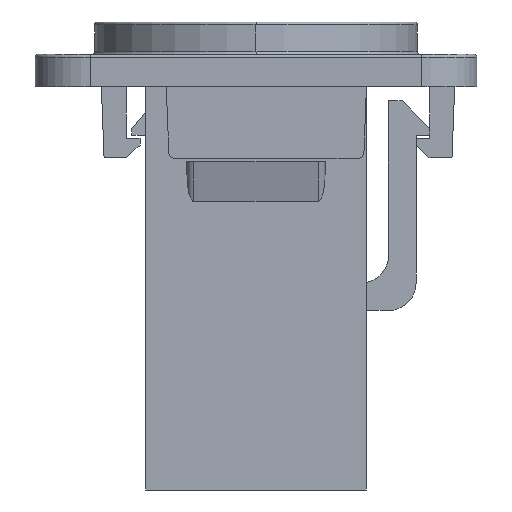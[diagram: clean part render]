
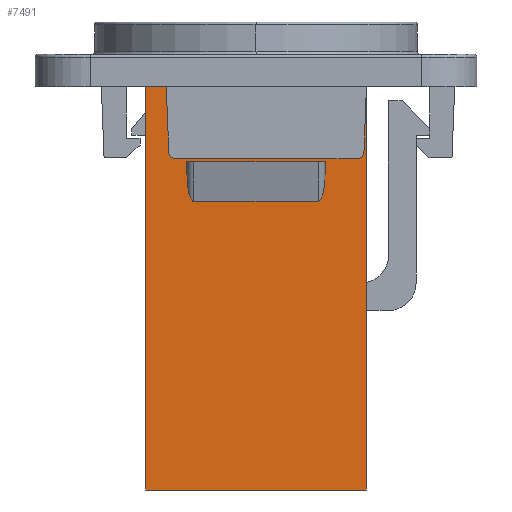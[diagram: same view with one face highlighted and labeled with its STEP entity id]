
A CAD part, left-side view. The second image highlights one B-rep face of the part: STEP entity #7491.
In plain terms, the highlighted planar face has unit normal (-1, 0, 0).
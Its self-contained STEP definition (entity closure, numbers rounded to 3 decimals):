
#200=DIRECTION('',(0.,0.,-1.));
#201=VECTOR('',#200,33.692);
#202=CARTESIAN_POINT('',(-7.3,8.,0.));
#203=LINE('',#202,#201);
#212=DIRECTION('',(0.,-1.,0.));
#213=VECTOR('',#212,16.);
#214=CARTESIAN_POINT('',(-7.3,8.,0.));
#215=LINE('',#214,#213);
#216=DIRECTION('',(0.,0.,-1.));
#217=VECTOR('',#216,33.692);
#218=CARTESIAN_POINT('',(-7.3,-8.,0.));
#219=LINE('',#218,#217);
#220=DIRECTION('',(0.,-1.,0.));
#221=VECTOR('',#220,9.);
#222=CARTESIAN_POINT('',(-7.3,4.5,-12.777));
#223=LINE('',#222,#221);
#224=DIRECTION('',(0.,0.,1.));
#225=VECTOR('',#224,0.942);
#226=CARTESIAN_POINT('',(-7.3,-5.,-10.86));
#227=LINE('',#226,#225);
#252=DIRECTION('',(0.,-1.,0.));
#253=VECTOR('',#252,16.);
#254=CARTESIAN_POINT('',(-7.3,8.,-33.692));
#255=LINE('',#254,#253);
#4958=CARTESIAN_POINT('',(-7.3,4.5,-12.777));
#4959=CARTESIAN_POINT('',(-7.3,4.55,-12.777));
#4960=CARTESIAN_POINT('',(-7.3,4.61,-12.736));
#4961=CARTESIAN_POINT('',(-7.3,4.68,-12.655));
#4962=CARTESIAN_POINT('',(-7.3,4.734,-12.558));
#4963=CARTESIAN_POINT('',(-7.3,4.795,-12.418));
#4964=CARTESIAN_POINT('',(-7.3,4.855,-12.225));
#4965=CARTESIAN_POINT('',(-7.3,4.909,-11.978));
#4966=CARTESIAN_POINT('',(-7.3,4.95,-11.716));
#4967=CARTESIAN_POINT('',(-7.3,4.988,-11.351));
#4968=CARTESIAN_POINT('',(-7.3,5.,-11.061));
#4969=CARTESIAN_POINT('',(-7.3,5.,-10.86));
#4979=DIRECTION('',(0.,-1.,0.));
#4980=VECTOR('',#4979,10.);
#4981=CARTESIAN_POINT('',(-7.3,5.,-9.917));
#4982=LINE('',#4981,#4980);
#4999=DIRECTION('',(0.,0.,1.));
#5000=VECTOR('',#4999,0.942);
#5001=CARTESIAN_POINT('',(-7.3,5.,-10.86));
#5002=LINE('',#5001,#5000);
#5011=CARTESIAN_POINT('',(-7.3,-5.,-10.86));
#5012=CARTESIAN_POINT('',(-7.3,-5.,-11.061));
#5013=CARTESIAN_POINT('',(-7.3,-4.988,-11.351));
#5014=CARTESIAN_POINT('',(-7.3,-4.95,-11.716));
#5015=CARTESIAN_POINT('',(-7.3,-4.909,-11.978));
#5016=CARTESIAN_POINT('',(-7.3,-4.855,-12.225));
#5017=CARTESIAN_POINT('',(-7.3,-4.795,-12.418));
#5018=CARTESIAN_POINT('',(-7.3,-4.734,-12.558));
#5019=CARTESIAN_POINT('',(-7.3,-4.68,-12.655));
#5020=CARTESIAN_POINT('',(-7.3,-4.61,-12.736));
#5021=CARTESIAN_POINT('',(-7.3,-4.55,-12.777));
#5022=CARTESIAN_POINT('',(-7.3,-4.5,-12.777));
#5881=CARTESIAN_POINT('',(-7.3,-8.,0.));
#5882=VERTEX_POINT('',#5881);
#5883=CARTESIAN_POINT('',(-7.3,8.,0.));
#5884=VERTEX_POINT('',#5883);
#6049=CARTESIAN_POINT('',(-7.3,8.,-33.692));
#6050=VERTEX_POINT('',#6049);
#6059=CARTESIAN_POINT('',(-7.3,-8.,-33.692));
#6060=VERTEX_POINT('',#6059);
#6061=CARTESIAN_POINT('',(-7.3,5.,-9.917));
#6062=CARTESIAN_POINT('',(-7.3,-5.,-9.917));
#6063=VERTEX_POINT('',#6061);
#6064=VERTEX_POINT('',#6062);
#7200=CARTESIAN_POINT('',(-7.3,4.5,-12.777));
#7201=VERTEX_POINT('',#7200);
#7202=CARTESIAN_POINT('',(-7.3,5.,-10.86));
#7203=VERTEX_POINT('',#7202);
#7205=CARTESIAN_POINT('',(-7.3,-4.5,-12.777));
#7207=VERTEX_POINT('',#7205);
#7209=CARTESIAN_POINT('',(-7.3,-5.,-10.86));
#7210=VERTEX_POINT('',#7209);
#7464=CARTESIAN_POINT('',(-7.3,8.,0.));
#7465=DIRECTION('',(-1.,0.,0.));
#7466=DIRECTION('',(0.,-1.,0.));
#7467=AXIS2_PLACEMENT_3D('',#7464,#7465,#7466);
#7468=PLANE('',#7467);
#7469=ORIENTED_EDGE('',*,*,#7220,.T.);
#7471=ORIENTED_EDGE('',*,*,#7470,.T.);
#7473=ORIENTED_EDGE('',*,*,#7472,.F.);
#7474=ORIENTED_EDGE('',*,*,#7446,.F.);
#7475=EDGE_LOOP('',(#7469,#7471,#7473,#7474));
#7476=FACE_OUTER_BOUND('',#7475,.F.);
#7478=ORIENTED_EDGE('',*,*,#7477,.T.);
#7480=ORIENTED_EDGE('',*,*,#7479,.F.);
#7482=ORIENTED_EDGE('',*,*,#7481,.T.);
#7484=ORIENTED_EDGE('',*,*,#7483,.F.);
#7486=ORIENTED_EDGE('',*,*,#7485,.F.);
#7488=ORIENTED_EDGE('',*,*,#7487,.F.);
#7489=EDGE_LOOP('',(#7478,#7480,#7482,#7484,#7486,#7488));
#7490=FACE_BOUND('',#7489,.F.);
#7491=ADVANCED_FACE('',(#7476,#7490),#7468,.T.);
#4970=B_SPLINE_CURVE_WITH_KNOTS('',3,(#4958,#4959,#4960,#4961,#4962,#4963,#4964,
#4965,#4966,#4967,#4968,#4969),.UNSPECIFIED.,.F.,.F.,(4,1,1,1,1,1,1,1,1,4),
(0.,0.063,0.125,0.188,0.25,0.375,0.5,0.625,0.75,1.),
.UNSPECIFIED.);
#5023=B_SPLINE_CURVE_WITH_KNOTS('',3,(#5011,#5012,#5013,#5014,#5015,#5016,#5017,
#5018,#5019,#5020,#5021,#5022),.UNSPECIFIED.,.F.,.F.,(4,1,1,1,1,1,1,1,1,4),
(0.,0.25,0.375,0.5,0.625,0.75,0.813,0.875,0.938,1.),
.UNSPECIFIED.);
#7220=EDGE_CURVE('',#5884,#5882,#215,.T.);
#7446=EDGE_CURVE('',#5884,#6050,#203,.T.);
#7470=EDGE_CURVE('',#5882,#6060,#219,.T.);
#7472=EDGE_CURVE('',#6050,#6060,#255,.T.);
#7477=EDGE_CURVE('',#7201,#7207,#223,.T.);
#7479=EDGE_CURVE('',#7210,#7207,#5023,.T.);
#7481=EDGE_CURVE('',#7210,#6064,#227,.T.);
#7483=EDGE_CURVE('',#6063,#6064,#4982,.T.);
#7485=EDGE_CURVE('',#7203,#6063,#5002,.T.);
#7487=EDGE_CURVE('',#7201,#7203,#4970,.T.);
